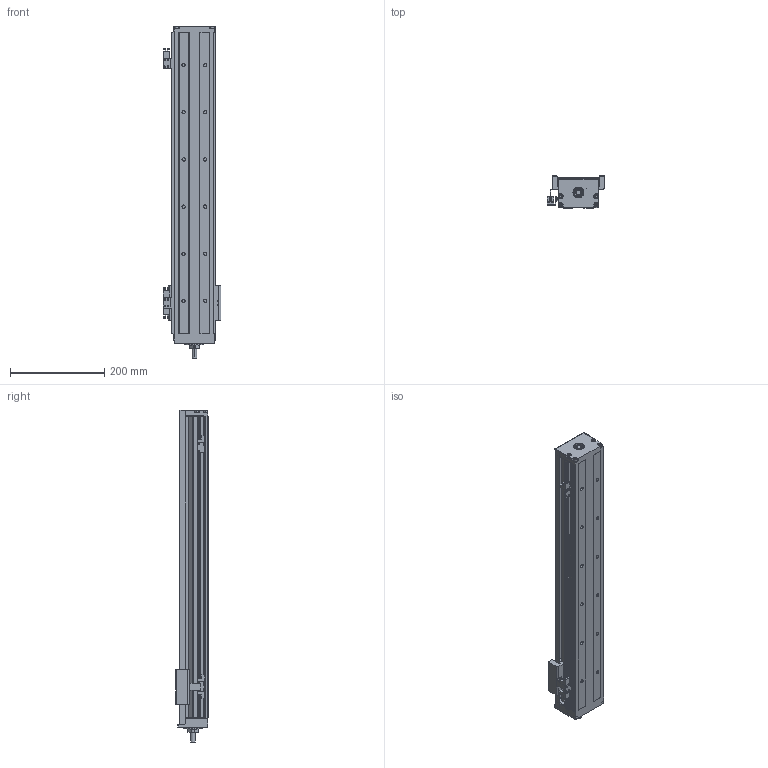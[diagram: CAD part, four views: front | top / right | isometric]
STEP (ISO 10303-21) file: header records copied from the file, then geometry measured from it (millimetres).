
FILE_DESCRIPTION (( 'STEP AP214' ), '1' );
FILE_NAME ('KK86-640A1-H0DS2.STEP', '2023-04-04T05:44:31', ( '微软用户' ), ( '微软中国' ), 'SwSTEP 2.0', 'SolidWorks 2018', '' );
FILE_SCHEMA (( 'AUTOMOTIVE_DESIGN' ));
Length unit declared in the file: millimetre
Products named in the file (11): 极限轨道与开关固定座组合_640; SFKK86-H0_KKR86-ZT-P-640; 开关固定座：KK-674S2-F; KK-86-FS 準梓嘐隅す怢; SFKK86-LR 憤癹寢耋_640; KK86-S2-S2準梓覜茼え; SFKK86-A1; KK86-耜啣_640; KK-86-CU-740祥凄詩裔啣_640; KK86-640A1-H0DS2; SX674嫖萇羲壽
Assembly tree (14 placements, depth 3):
  KK86-640A1-H0DS2
    SFKK86-H0_KKR86-ZT-P-640
    SFKK86-A1
    极限轨道与开关固定座组合_640
      SFKK86-LR 憤癹寢耋_640
      开关固定座：KK-674S2-F  x2
    SX674嫖萇羲壽  x3
    KK-86-FS 準梓嘐隅す怢
    KK-86-CU-740祥凄詩裔啣_640
    KK86-耜啣_640  x2
    KK86-S2-S2準梓覜茼え
Bounding box: 122.25 x 68 x 704 mm (x, y, z)
Volume: 1561396 mm3; surface area: 628581.5 mm2
Topology: 30 solids, 30 shells, 1652 faces, 4249 edges, 2666 vertices
Faces by surface type: plane 805, cylinder 593, cone 188, torus 43, sphere 15, bspline 8
Entity records: 56064 total; most frequent: CARTESIAN_POINT 13232, DIRECTION 7863, ORIENTED_EDGE 7552, EDGE_CURVE 3776, AXIS2_PLACEMENT_3D 2763, VERTEX_POINT 2416, LINE 2337, VECTOR 2337
